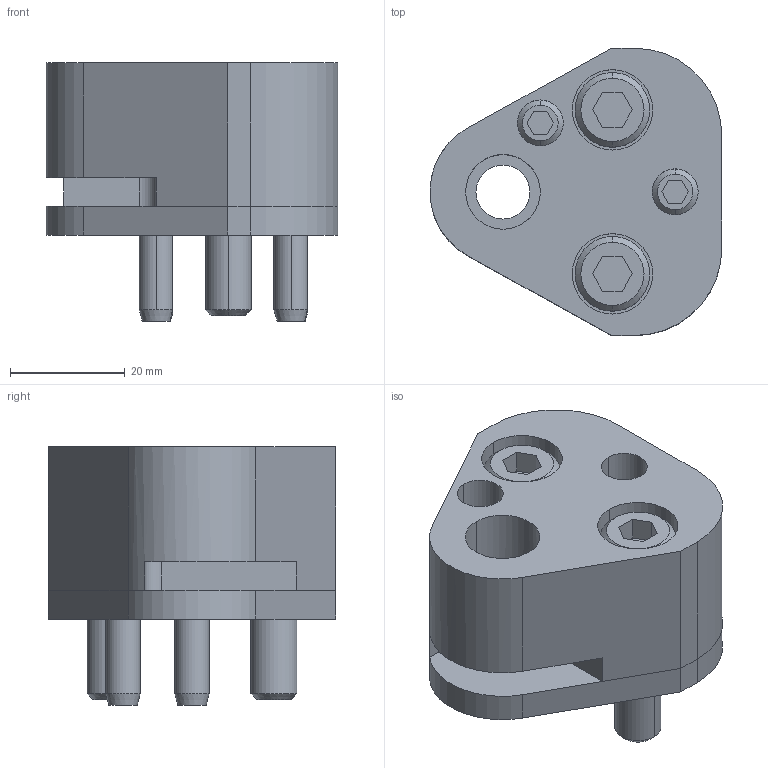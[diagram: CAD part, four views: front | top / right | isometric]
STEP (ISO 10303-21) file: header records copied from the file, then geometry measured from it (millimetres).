
FILE_DESCRIPTION(/* description */ (''),/* implementation_level */ '2;1');
FILE_NAME(/* name */ '3d_25crn-fd13_03144_r00.stp',/* time_stamp */ '2011-01-10T14:17:53+09:00',/* author */ ('MISUMI'),/* organization */ (''),/* preprocessor_version */ 'ST-DEVELOPER v11',/* originating_system */ 'UGS - NX 5.0',/* authorisation */ '');
FILE_SCHEMA (('CONFIG_CONTROL_DESIGN'));
Length unit declared in the file: millimetre
Products named in the file (1): 3d_25crn-fd13_03144_r00
Bounding box: 50.77 x 50 x 45 mm (x, y, z)
Volume: 50544.3 mm3; surface area: 20476.1 mm2
Topology: 8 solids, 8 shells, 156 faces, 358 edges, 231 vertices
Faces by surface type: plane 69, cylinder 61, cone 26
Entity records: 4585 total; most frequent: DIRECTION 815, CARTESIAN_POINT 805, ORIENTED_EDGE 716, EDGE_CURVE 358, AXIS2_PLACEMENT_3D 307, VERTEX_POINT 231, LINE 201, VECTOR 201
